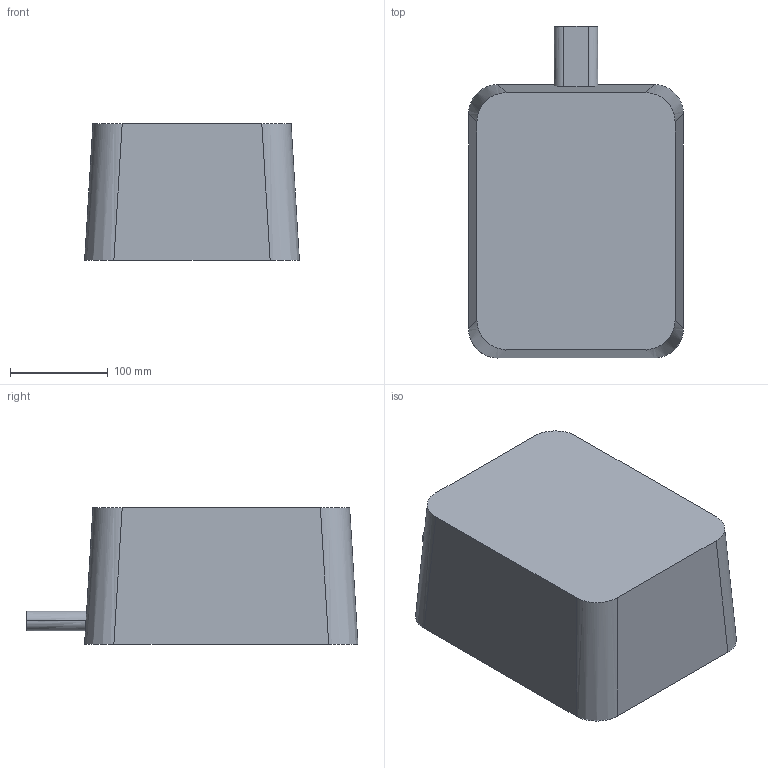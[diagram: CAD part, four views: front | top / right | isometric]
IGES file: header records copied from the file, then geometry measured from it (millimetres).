
Start section: SolidWorks IGES file using analytic representation for surfaces
Global section: file name: D:\Mijn Documenten\My Dropbox\Dropbox\URS-ROB\ZEICHNUNGEN-FUER-VERKAEFER\SOAPBOX\SPACE-REQUIRED-SOAPBOX.IGS; native system: SolidWorks 2009; preprocessor: SolidWorks 2009; author: Gebruiker; date: 120604.150533; units: millimetre
Bounding box: 220 x 340 x 140 mm (x, y, z)
Surface area: 249620.8 mm2 (no closed solid volume)
Topology: 0 solids, 0 shells, 39 faces, 548 edges, 548 vertices
Faces by surface type: bspline 21, revolution 18
